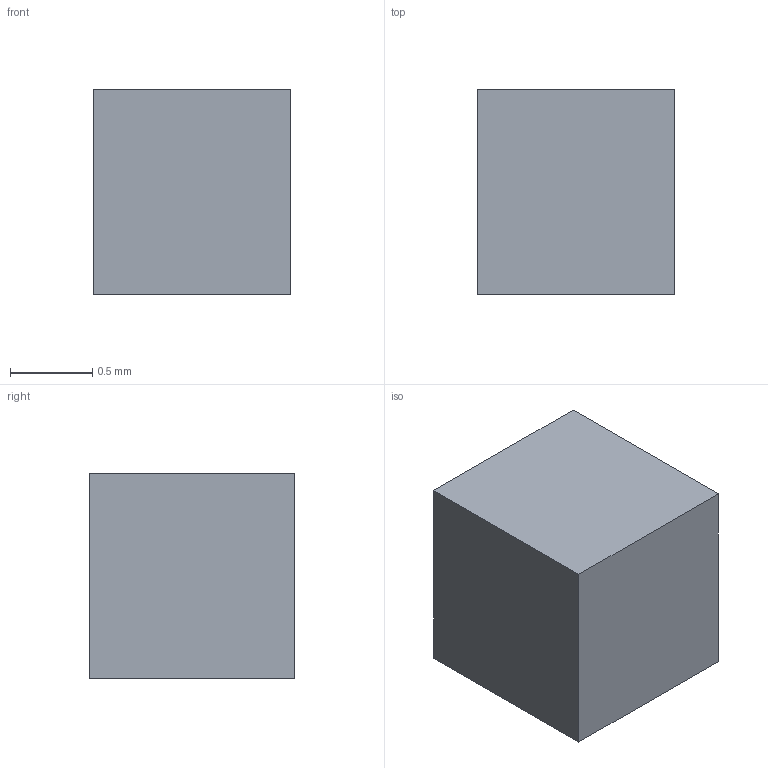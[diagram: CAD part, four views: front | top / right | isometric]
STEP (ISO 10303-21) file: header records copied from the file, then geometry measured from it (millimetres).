
FILE_DESCRIPTION(/* description */ ('STEP AP242 Edition 2','CAx-IF Rec.Pracs.---Representation and Presentation of Product Manufacturing Information (PMI)---4.0---2014-10-13','CAx-IF Rec.Pracs.---3D Tessellated Geometry---0.4---2014-09-14','2;1','CAx-IF Rec.Pracs.---User Defined Attributes---1.5---2016-08-15'),/* implementation_level */ '2;1');
FILE_NAME(/* name */ 'HIRO_Assembly - SMD Capacitor, Configurable, Raspberry Pi Pico-R3_C2',/* time_stamp */ '2026-11-04T05:23:28Z',/* author */ (''),/* organization */ (''),/* preprocessor_version */ 'ST-DEVELOPER v20',/* originating_system */ 'ONSHAPE BY PTC INC, 1.223',/* authorisation */ ' ');
FILE_SCHEMA (('AP242_MANAGED_MODEL_BASED_3D_ENGINEERING_MIM_LF { 1 0 10303 442 3 1 4 }'));
Length unit declared in the file: metre
Products named in the file (1): SMD Capacitor, Configurable, Raspberry Pi Pico-R3_C2
Bounding box: 1.2 x 1.25 x 1.25 mm (x, y, z)
Volume: 1.9 mm3; surface area: 9.1 mm2
Topology: 1 solids, 1 shells, 6 faces, 12 edges, 8 vertices
Faces by surface type: plane 6
Entity records: 221 total; most frequent: CARTESIAN_POINT 27, DIRECTION 26, ORIENTED_EDGE 24, EDGE_CURVE 12, LINE 12, VECTOR 12, VERTEX_POINT 8, PRESENTATION_STYLE_ASSIGNMENT 7
